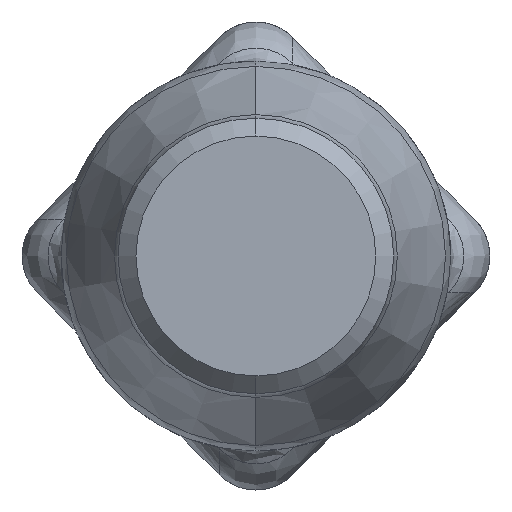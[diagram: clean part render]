
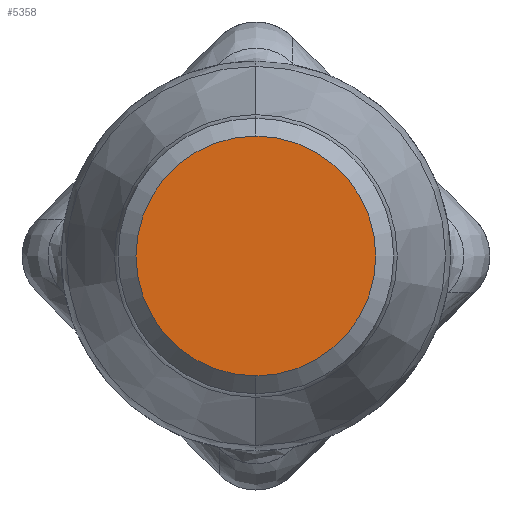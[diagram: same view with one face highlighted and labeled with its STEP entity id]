
A CAD part, left-side view. The second image highlights one B-rep face of the part: STEP entity #5358.
In plain terms, the highlighted planar face has unit normal (-1, 0, 0).
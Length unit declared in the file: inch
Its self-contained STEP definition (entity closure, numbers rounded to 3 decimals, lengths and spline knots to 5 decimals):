
#293 = CARTESIAN_POINT ( 'NONE',  ( -2.69, -0.13552, 1.44 ) ) ;
#335 = DIRECTION ( 'NONE',  ( -1., 0., 0. ) ) ;
#715 = DIRECTION ( 'NONE',  ( 0., 0., 1. ) ) ;
#1491 = CARTESIAN_POINT ( 'NONE',  ( -2.69, -0.13552, 0. ) ) ;
#1756 = ORIENTED_EDGE ( 'NONE', *, *, #4791, .T. ) ;
#2093 = DIRECTION ( 'NONE',  ( 0., 0., 1. ) ) ;
#2358 = EDGE_LOOP ( 'NONE', ( #2989, #1756 ) ) ;
#2612 = AXIS2_PLACEMENT_3D ( 'NONE', #1491, #5647, #2093 ) ;
#2855 = AXIS2_PLACEMENT_3D ( 'NONE', #3898, #335, #4497 ) ;
#2989 = ORIENTED_EDGE ( 'NONE', *, *, #5082, .T. ) ;
#3557 = FACE_OUTER_BOUND ( 'NONE', #2358, .T. ) ;
#3681 = PLANE ( 'NONE',  #5825 ) ;
#3898 = CARTESIAN_POINT ( 'NONE',  ( -2.69, -0.13552, 0. ) ) ;
#4221 = CIRCLE ( 'NONE', #2612, 1.44 ) ;
#4255 = CARTESIAN_POINT ( 'NONE',  ( -2.69, 1.30448, 0. ) ) ;
#4276 = DIRECTION ( 'NONE',  ( -1., 0., 0. ) ) ;
#4497 = DIRECTION ( 'NONE',  ( 0., 0., 1. ) ) ;
#4791 = EDGE_CURVE ( 'NONE', #5363, #4805, #4221, .T. ) ;
#4805 = VERTEX_POINT ( 'NONE', #293 ) ;
#4877 = CIRCLE ( 'NONE', #2855, 1.44 ) ;
#5082 = EDGE_CURVE ( 'NONE', #4805, #5363, #4877, .T. ) ;
#5358 = ADVANCED_FACE ( 'NONE', ( #3557 ), #3681, .T. ) ;
#5363 = VERTEX_POINT ( 'NONE', #6037 ) ;
#5647 = DIRECTION ( 'NONE',  ( -1., 0., 0. ) ) ;
#5825 = AXIS2_PLACEMENT_3D ( 'NONE', #4255, #4276, #715 ) ;
#6037 = CARTESIAN_POINT ( 'NONE',  ( -2.69, -0.13552, -1.44 ) ) ;
